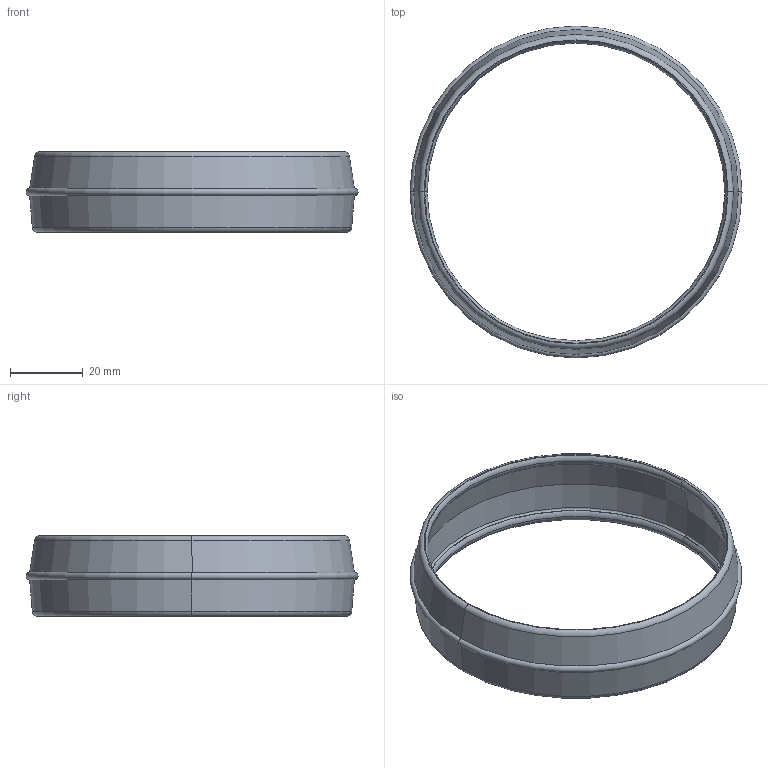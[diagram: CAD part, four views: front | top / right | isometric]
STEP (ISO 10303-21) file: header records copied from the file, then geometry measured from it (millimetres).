
FILE_DESCRIPTION (( 'STEP AP214' ), '1' );
FILE_NAME ('0238 Schutzring.STEP', '2025-03-26T07:09:53', ( '' ), ( '' ), 'SwSTEP 2.0', 'SolidWorks 2022', '' );
FILE_SCHEMA (( 'AUTOMOTIVE_DESIGN' ));
Length unit declared in the file: millimetre
Products named in the file (1): 0238 Schutzring
Bounding box: 91 x 91 x 22.2 mm (x, y, z)
Volume: 8595.4 mm3; surface area: 13473.7 mm2
Topology: 1 solids, 1 shells, 30 faces, 60 edges, 34 vertices
Faces by surface type: torus 18, cone 8, plane 4
Entity records: 830 total; most frequent: DIRECTION 174, CARTESIAN_POINT 125, ORIENTED_EDGE 120, AXIS2_PLACEMENT_3D 83, EDGE_CURVE 60, CIRCLE 52, EDGE_LOOP 34, VERTEX_POINT 34
